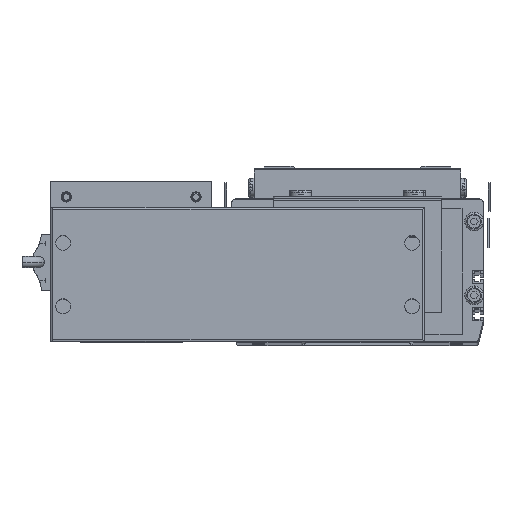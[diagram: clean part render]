
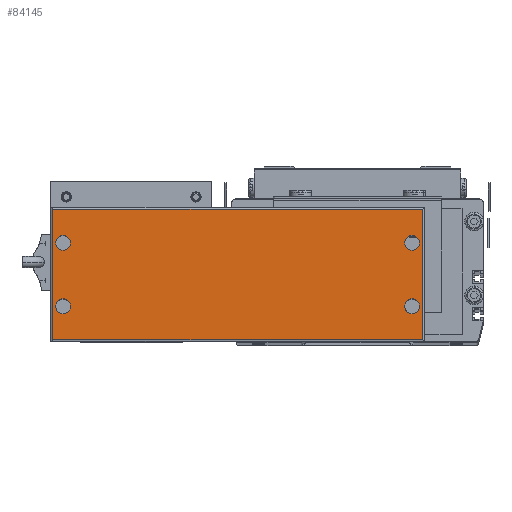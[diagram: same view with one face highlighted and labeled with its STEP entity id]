
A CAD part, top view. The second image highlights one B-rep face of the part: STEP entity #84145.
In plain terms, the highlighted planar face has unit normal (0, 0, 1).
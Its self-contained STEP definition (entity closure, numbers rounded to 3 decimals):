
#9668 = AXIS2_PLACEMENT_3D ( 'NONE', #9727, #9736, #9814 ) ;
#9669 = DIRECTION ( 'NONE',  ( 1., 0., 0. ) ) ;
#9670 = DIRECTION ( 'NONE',  ( 0., 0., 1. ) ) ;
#9671 = AXIS2_PLACEMENT_3D ( 'NONE', #9762, #9670, #9669 ) ;
#9675 = FACE_BOUND ( 'NONE', #84105, .T. ) ;
#9676 = FACE_OUTER_BOUND ( 'NONE', #84090, .T. ) ;
#9678 = DIRECTION ( 'NONE',  ( 0., -1., 0. ) ) ;
#9727 = CARTESIAN_POINT ( 'NONE',  ( -164.25, 0., 44. ) ) ;
#9728 = DIRECTION ( 'NONE',  ( 1., 0., 0. ) ) ;
#9729 = VECTOR ( 'NONE', #9728, 1000. ) ;
#9730 = CARTESIAN_POINT ( 'NONE',  ( 35.75, 1., 44. ) ) ;
#9731 = FACE_BOUND ( 'NONE', #84108, .T. ) ;
#9734 = VECTOR ( 'NONE', #9678, 1000. ) ;
#9735 = FACE_BOUND ( 'NONE', #83845, .T. ) ;
#9736 = DIRECTION ( 'NONE',  ( 0., 0., 1. ) ) ;
#9737 = FACE_BOUND ( 'NONE', #84120, .T. ) ;
#9738 = PLANE ( 'NONE',  #9668 ) ;
#9756 = LINE ( 'NONE', #9730, #9729 ) ;
#9762 = CARTESIAN_POINT ( 'NONE',  ( 29.25, 19., 44. ) ) ;
#9792 = CARTESIAN_POINT ( 'NONE',  ( -163.25, 71., 44. ) ) ;
#9808 = CARTESIAN_POINT ( 'NONE',  ( -163.25, 0., 44. ) ) ;
#9809 = LINE ( 'NONE', #9808, #9734 ) ;
#9813 = CIRCLE ( 'NONE', #9671, 4. ) ;
#9814 = DIRECTION ( 'NONE',  ( 1., 0., 0. ) ) ;
#55538 = DIRECTION ( 'NONE',  ( 1., 0., 0. ) ) ;
#55552 = DIRECTION ( 'NONE',  ( 0., 0., 1. ) ) ;
#55554 = DIRECTION ( 'NONE',  ( 1., 0., 0. ) ) ;
#55555 = DIRECTION ( 'NONE',  ( 0., 0., 1. ) ) ;
#55608 = CIRCLE ( 'NONE', #55642, 4. ) ;
#55621 = CIRCLE ( 'NONE', #55659, 4. ) ;
#55642 = AXIS2_PLACEMENT_3D ( 'NONE', #55662, #55555, #55554 ) ;
#55659 = AXIS2_PLACEMENT_3D ( 'NONE', #55663, #55552, #55538 ) ;
#55662 = CARTESIAN_POINT ( 'NONE',  ( 29.25, 53., 44. ) ) ;
#55663 = CARTESIAN_POINT ( 'NONE',  ( 29.25, 19., 44. ) ) ;
#56087 = CARTESIAN_POINT ( 'NONE',  ( 25.25, 53., 44. ) ) ;
#67576 = CARTESIAN_POINT ( 'NONE',  ( -163.25, 1., 44. ) ) ;
#67941 = AXIS2_PLACEMENT_3D ( 'NONE', #68001, #67994, #68004 ) ;
#67949 = CIRCLE ( 'NONE', #67941, 4. ) ;
#67994 = DIRECTION ( 'NONE',  ( 0., 0., 1. ) ) ;
#67996 = DIRECTION ( 'NONE',  ( 1., 0., 0. ) ) ;
#67998 = DIRECTION ( 'NONE',  ( 0., 0., 1. ) ) ;
#68001 = CARTESIAN_POINT ( 'NONE',  ( 29.25, 53., 44. ) ) ;
#68004 = DIRECTION ( 'NONE',  ( 1., 0., 0. ) ) ;
#68052 = CIRCLE ( 'NONE', #68084, 4. ) ;
#68084 = AXIS2_PLACEMENT_3D ( 'NONE', #68348, #68452, #68451 ) ;
#68128 = DIRECTION ( 'NONE',  ( -1., 0., 0. ) ) ;
#68129 = VECTOR ( 'NONE', #68128, 1000. ) ;
#68130 = CARTESIAN_POINT ( 'NONE',  ( -164.25, 71., 44. ) ) ;
#68132 = LINE ( 'NONE', #68130, #68129 ) ;
#68168 = DIRECTION ( 'NONE',  ( 0., 1., 0. ) ) ;
#68170 = VECTOR ( 'NONE', #68168, 1000. ) ;
#68171 = CARTESIAN_POINT ( 'NONE',  ( 34.75, 72., 44. ) ) ;
#68172 = LINE ( 'NONE', #68171, #68170 ) ;
#68174 = CIRCLE ( 'NONE', #68211, 4. ) ;
#68208 = CARTESIAN_POINT ( 'NONE',  ( -157.75, 53., 44. ) ) ;
#68211 = AXIS2_PLACEMENT_3D ( 'NONE', #68208, #67998, #67996 ) ;
#68236 = CARTESIAN_POINT ( 'NONE',  ( 34.75, 1., 44. ) ) ;
#68348 = CARTESIAN_POINT ( 'NONE',  ( -157.75, 19., 44. ) ) ;
#68350 = CARTESIAN_POINT ( 'NONE',  ( 34.75, 71., 44. ) ) ;
#68451 = DIRECTION ( 'NONE',  ( 1., 0., 0. ) ) ;
#68452 = DIRECTION ( 'NONE',  ( 0., 0., 1. ) ) ;
#78229 = CARTESIAN_POINT ( 'NONE',  ( -161.75, 53., 44. ) ) ;
#78284 = CARTESIAN_POINT ( 'NONE',  ( -153.75, 19., 44. ) ) ;
#78813 = CARTESIAN_POINT ( 'NONE',  ( -153.75, 53., 44. ) ) ;
#78963 = CARTESIAN_POINT ( 'NONE',  ( -157.75, 19., 44. ) ) ;
#78974 = CIRCLE ( 'NONE', #79032, 4. ) ;
#79010 = CARTESIAN_POINT ( 'NONE',  ( 33.25, 53., 44. ) ) ;
#79011 = DIRECTION ( 'NONE',  ( 1., 0., 0. ) ) ;
#79012 = DIRECTION ( 'NONE',  ( 0., 0., 1. ) ) ;
#79013 = CARTESIAN_POINT ( 'NONE',  ( -157.75, 53., 44. ) ) ;
#79032 = AXIS2_PLACEMENT_3D ( 'NONE', #79013, #79012, #79011 ) ;
#79039 = CARTESIAN_POINT ( 'NONE',  ( -161.75, 19., 44. ) ) ;
#79059 = DIRECTION ( 'NONE',  ( 1., 0., 0. ) ) ;
#79060 = DIRECTION ( 'NONE',  ( 0., 0., 1. ) ) ;
#79067 = AXIS2_PLACEMENT_3D ( 'NONE', #78963, #79060, #79059 ) ;
#79077 = CIRCLE ( 'NONE', #79067, 4. ) ;
#79281 = CARTESIAN_POINT ( 'NONE',  ( 33.25, 19., 44. ) ) ;
#79329 = CARTESIAN_POINT ( 'NONE',  ( 25.25, 19., 44. ) ) ;
#82031 = EDGE_CURVE ( 'NONE', #82056, #99477, #55608, .T. ) ;
#82032 = EDGE_CURVE ( 'NONE', #99465, #99462, #55621, .T. ) ;
#82056 = VERTEX_POINT ( 'NONE', #56087 ) ;
#83682 = ORIENTED_EDGE ( 'NONE', *, *, #82032, .F. ) ;
#83686 = ORIENTED_EDGE ( 'NONE', *, *, #84092, .F. ) ;
#83690 = ORIENTED_EDGE ( 'NONE', *, *, #99357, .F. ) ;
#83694 = ORIENTED_EDGE ( 'NONE', *, *, #84000, .F. ) ;
#83845 = EDGE_LOOP ( 'NONE', ( #83694, #83854 ) ) ;
#83852 = VERTEX_POINT ( 'NONE', #67576 ) ;
#83854 = ORIENTED_EDGE ( 'NONE', *, *, #99340, .F. ) ;
#84000 = EDGE_CURVE ( 'NONE', #99081, #99358, #68052, .T. ) ;
#84004 = ORIENTED_EDGE ( 'NONE', *, *, #84114, .T. ) ;
#84009 = EDGE_CURVE ( 'NONE', #84011, #84115, #68132, .T. ) ;
#84011 = VERTEX_POINT ( 'NONE', #68350 ) ;
#84032 = VERTEX_POINT ( 'NONE', #68236 ) ;
#84042 = ORIENTED_EDGE ( 'NONE', *, *, #84153, .F. ) ;
#84055 = ORIENTED_EDGE ( 'NONE', *, *, #84130, .T. ) ;
#84081 = ORIENTED_EDGE ( 'NONE', *, *, #84009, .T. ) ;
#84084 = EDGE_CURVE ( 'NONE', #84032, #84011, #68172, .T. ) ;
#84086 = ORIENTED_EDGE ( 'NONE', *, *, #82031, .F. ) ;
#84090 = EDGE_LOOP ( 'NONE', ( #84055, #84111, #84081, #84004 ) ) ;
#84092 = EDGE_CURVE ( 'NONE', #99290, #99107, #68174, .T. ) ;
#84098 = EDGE_CURVE ( 'NONE', #99477, #82056, #67949, .T. ) ;
#84105 = EDGE_LOOP ( 'NONE', ( #83686, #83690 ) ) ;
#84108 = EDGE_LOOP ( 'NONE', ( #84162, #84086 ) ) ;
#84111 = ORIENTED_EDGE ( 'NONE', *, *, #84084, .T. ) ;
#84114 = EDGE_CURVE ( 'NONE', #84115, #83852, #9809, .T. ) ;
#84115 = VERTEX_POINT ( 'NONE', #9792 ) ;
#84120 = EDGE_LOOP ( 'NONE', ( #84042, #83682 ) ) ;
#84130 = EDGE_CURVE ( 'NONE', #83852, #84032, #9756, .T. ) ;
#84145 = ADVANCED_FACE ( 'NONE', ( #9675, #9735, #9737, #9731, #9676 ), #9738, .T. ) ;
#84153 = EDGE_CURVE ( 'NONE', #99462, #99465, #9813, .T. ) ;
#84162 = ORIENTED_EDGE ( 'NONE', *, *, #84098, .F. ) ;
#99081 = VERTEX_POINT ( 'NONE', #78284 ) ;
#99107 = VERTEX_POINT ( 'NONE', #78229 ) ;
#99290 = VERTEX_POINT ( 'NONE', #78813 ) ;
#99340 = EDGE_CURVE ( 'NONE', #99358, #99081, #79077, .T. ) ;
#99357 = EDGE_CURVE ( 'NONE', #99107, #99290, #78974, .T. ) ;
#99358 = VERTEX_POINT ( 'NONE', #79039 ) ;
#99462 = VERTEX_POINT ( 'NONE', #79281 ) ;
#99465 = VERTEX_POINT ( 'NONE', #79329 ) ;
#99477 = VERTEX_POINT ( 'NONE', #79010 ) ;
